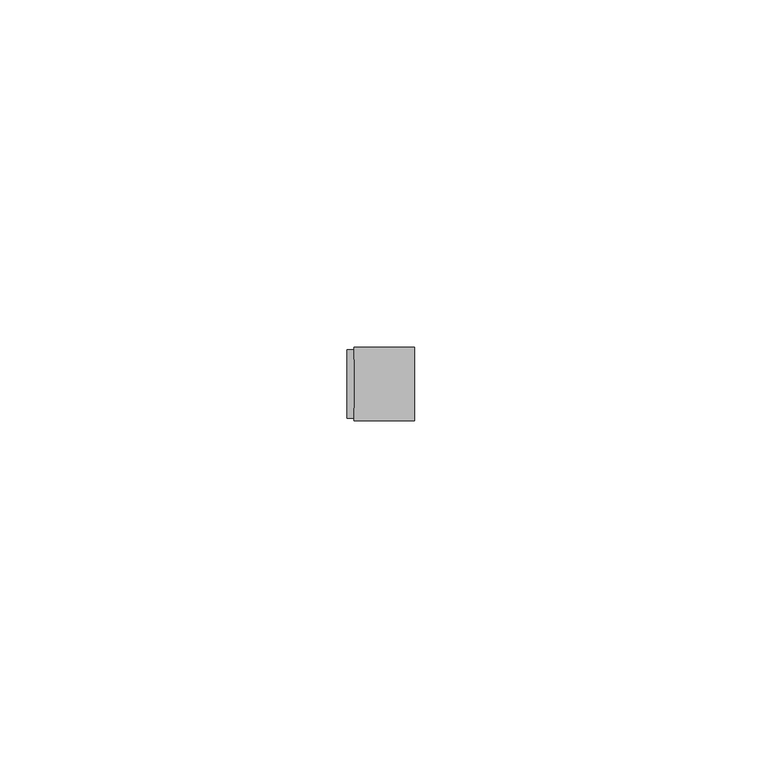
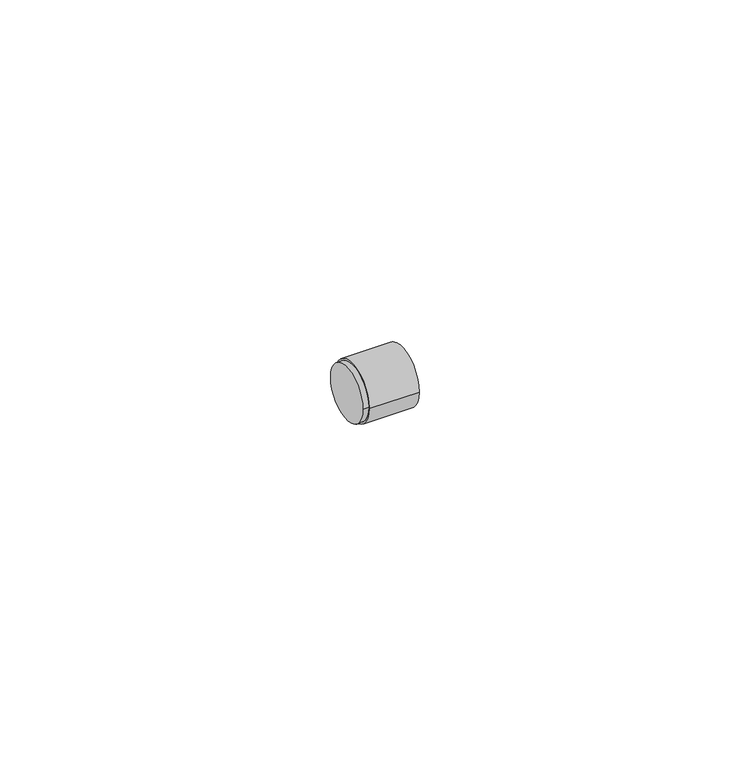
"""IFC4 building model written with IfcOpenShell, lengths in millimetres: pipe fitting geometry, Bucha de redução reta - Soldada - CU : Padrão."""

from ifc_helpers import new_model, si_unit, frame, origin, place, context, project, spatial, circle_curve, source, transform, mapped, element, save
from ifc_brep_helpers import plane_surface, cylinder_surface, advanced_brep


def pipe_fitting_f1a24d16(model_context):
    return source(origin(), model_context, "Body", "AdvancedBrep", [
        advanced_brep(
        [(0.0, -4.9, 0.0), (0.0, 4.9, 0.0), (1.0, -4.9, 0.0), (1.0, 4.9, 0.0), (9.6791, -5.2603, 0.0), (9.6791, 5.2603, 0.0), (1.0, 5.2603, 0.0), (1.0, -5.2603, 0.0)],
        [
            (0, 1, circle_curve(frame((0.0, 0.0, 0.0), z_axis=(-1.0, 0.0, 0.0), x_axis=(0.0, 1.0, 0.0)), 4.9)),
            (1, 0, circle_curve(frame((0.0, 0.0, 0.0), z_axis=(-1.0, 0.0, 0.0), x_axis=(0.0, 1.0, 0.0)), 4.9)),
            (0, 2),
            (2, 3, circle_curve(frame((1.0, 0.0, 0.0), z_axis=(-1.0, 0.0, 0.0), x_axis=(0.0, 1.0, 0.0)), 4.9)),
            (3, 1),
            (3, 2, circle_curve(frame((1.0, 0.0, 0.0), z_axis=(-1.0, 0.0, 0.0), x_axis=(0.0, 1.0, 0.0)), 4.9)),
            (4, 5, circle_curve(frame((9.6791, 0.0, 0.0), z_axis=(1.0, 0.0, 0.0), x_axis=(0.0, 1.0, 0.0)), 5.2603)),
            (5, 4, circle_curve(frame((9.6791, 0.0, 0.0), z_axis=(1.0, 0.0, 0.0), x_axis=(0.0, 1.0, 0.0)), 5.2603)),
            (6, 7, circle_curve(frame((1.0, 0.0, 0.0), z_axis=(1.0, 0.0, 0.0), x_axis=(0.0, 1.0, 0.0)), 5.2603)),
            (7, 4),
            (5, 6),
            (7, 6, circle_curve(frame((1.0, 0.0, 0.0), z_axis=(1.0, 0.0, 0.0), x_axis=(0.0, 1.0, 0.0)), 5.2603)),
        ],
        [
            plane_surface(frame((0.0, 0.0, 0.0), z_axis=(-1.0, 0.0, 0.0), x_axis=(0.0, 0.0, 1.0))),
            cylinder_surface(frame((0.0, 0.0, 0.0), z_axis=(-1.0, 0.0, 0.0), x_axis=(0.0, 1.0, 0.0)), 4.9),
            plane_surface(frame((9.6791, 0.0, 0.0), z_axis=(1.0, 0.0, 0.0), x_axis=(0.0, 0.0, 1.0))),
            cylinder_surface(frame((1.0, 0.0, 0.0), z_axis=(-1.0, 0.0, 0.0), x_axis=(0.0, 1.0, 0.0)), 5.2603),
            plane_surface(frame((1.0, 0.0, 0.0), z_axis=(-1.0, 0.0, 0.0), x_axis=(0.0, 0.0, 1.0))),
        ],
        [
            (0, [[1, 2]]),
            (1, [[-1, 3, 4, 5]]),
            (1, [[-2, -5, 6, -3]]),
            (2, [[7, 8]]),
            (3, [[9, 10, -8, 11]]),
            (3, [[12, -11, -7, -10]]),
            (4, [[-9, -12], [-4, -6]]),
        ],
    ),
    ])


if __name__ == "__main__":
    model = new_model("IFC4")
    model_context = context("Model", 3, world=origin())
    ifc_project = project(units=[si_unit("LENGTHUNIT", "METRE", prefix="MILLI")], contexts=[model_context])
    site = spatial("IfcSite", under=ifc_project)
    building = spatial("IfcBuilding", under=site)
    placement = place(None, origin())
    pipe_fitting_shape = pipe_fitting_f1a24d16(model_context)
    element("IfcPipeFitting", 1, ObjectType="Bucha de redução reta - Soldada - CU : Padrão", at=placement, inside=building, context=model_context, shape_type="MappedRepresentation", body=[
        mapped(pipe_fitting_shape, transform((0.0, 0.0, 0.0), x_axis=(1.0, 0.0, 0.0), y_axis=(0.0, 1.0, 0.0), z_axis=(0.0, 0.0, 1.0))),
    ])
    save(model, "model.ifc")
